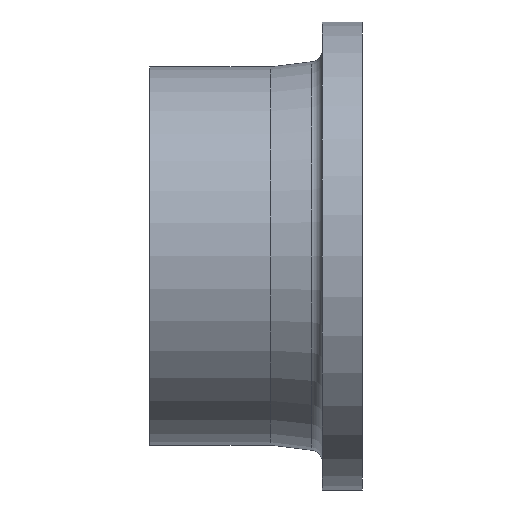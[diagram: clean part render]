
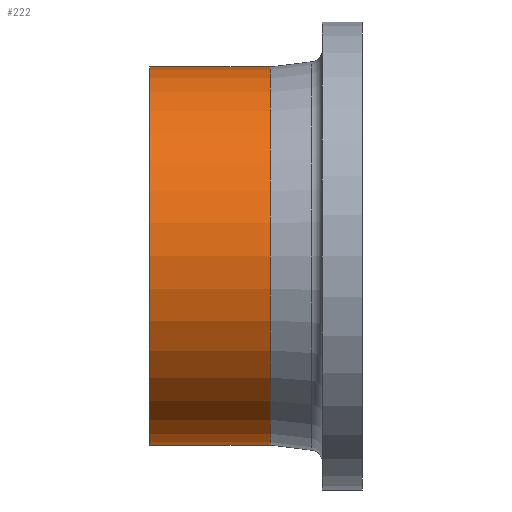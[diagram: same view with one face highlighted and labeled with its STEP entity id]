
A CAD part, front view. The second image highlights one B-rep face of the part: STEP entity #222.
In plain terms, the highlighted cylindrical face has radius 80 mm (diameter 160 mm), a full revolution.
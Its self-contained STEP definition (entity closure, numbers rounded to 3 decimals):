
#27=FACE_BOUND($,#66,.T.);
#50=FACE_OUTER_BOUND($,#65,.T.);
#65=EDGE_LOOP($,(#160));
#66=EDGE_LOOP($,(#161));
#103=CIRCLE($,#245,80.);
#104=CIRCLE($,#246,80.);
#122=VERTEX_POINT($,#362);
#123=VERTEX_POINT($,#364);
#141=EDGE_CURVE($,#122,#122,#103,.T.);
#142=EDGE_CURVE($,#123,#123,#104,.T.);
#160=ORIENTED_EDGE($,*,*,#141,.F.);
#161=ORIENTED_EDGE($,*,*,#142,.T.);
#198=CYLINDRICAL_SURFACE($,#244,80.);
#222=ADVANCED_FACE($,(#50,#27),#198,.T.);
#244=AXIS2_PLACEMENT_3D($,#361,#284,#285);
#245=AXIS2_PLACEMENT_3D($,#363,#286,#287);
#246=AXIS2_PLACEMENT_3D($,#365,#288,#289);
#284=DIRECTION('center_axis',(1.,0.,0.));
#285=DIRECTION('ref_axis',(0.,1.,0.));
#286=DIRECTION('center_axis',(1.,0.,0.));
#287=DIRECTION('ref_axis',(0.,1.,0.));
#288=DIRECTION('center_axis',(1.,0.,0.));
#289=DIRECTION('ref_axis',(0.,1.,0.));
#361=CARTESIAN_POINT('Origin',(25.5,0.,0.));
#362=CARTESIAN_POINT('',(51.,80.,0.));
#363=CARTESIAN_POINT('Origin',(51.,0.,0.));
#364=CARTESIAN_POINT('',(0.,80.,0.));
#365=CARTESIAN_POINT('Origin',(0.,0.,
0.));
